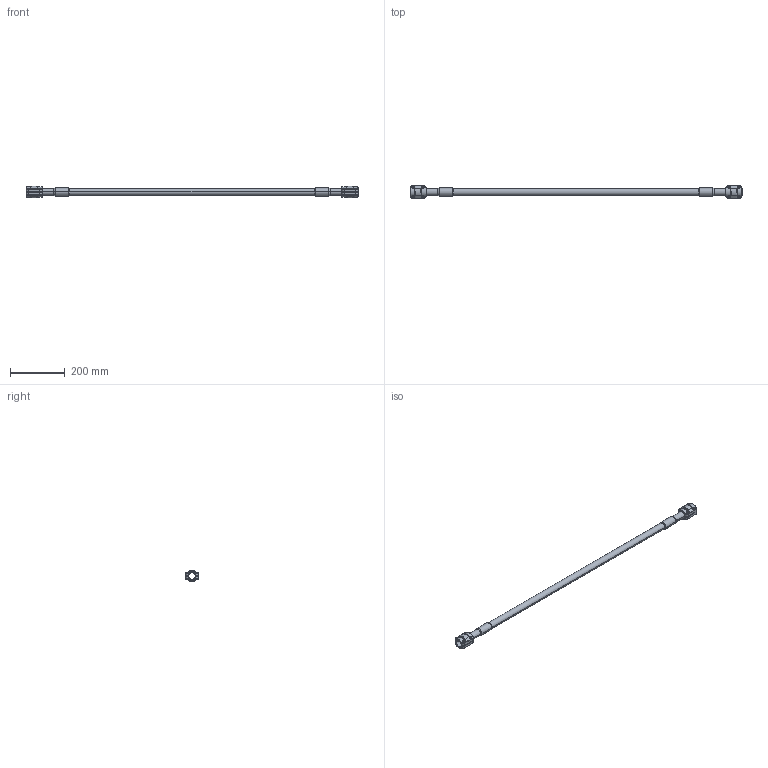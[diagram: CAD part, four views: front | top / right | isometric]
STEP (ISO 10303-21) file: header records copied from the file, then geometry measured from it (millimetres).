
FILE_DESCRIPTION((''),'2;1');
FILE_NAME('2015205599_ASM','2017-05-12T',('Administrator'),(''),'PRO/ENGINEER BY PARAMETRIC TECHNOLOGY CORPORATION, 2009360','PRO/ENGINEER BY PARAMETRIC TECHNOLOGY CORPORATION, 2009360','');
FILE_SCHEMA(('AUTOMOTIVE_DESIGN_CC2 { 1 2 10303 214 -1 1 5 2 }'));
Length unit declared in the file: millimetre
Products named in the file (5): 2015205500; 201520020000_23; 201520020001_10; 2015200200_ASM; 2015205599_ASM
Assembly tree (5 placements, depth 3):
  2015205599_ASM
    2015205500
    2015200200_ASM  x2
      201520020000_23
      201520020001_10
Bounding box: 1212 x 46 x 43.8 mm (x, y, z)
Volume: 206456.5 mm3; surface area: 213010.5 mm2
Topology: 5 solids, 5 shells, 654 faces, 1508 edges, 864 vertices
Faces by surface type: bspline 288, cylinder 204, torus 88, plane 58, sphere 16
Entity records: 16954 total; most frequent: CARTESIAN_POINT 7943, ORIENTED_EDGE 1552, DIRECTION 1116, PRESENTATION_STYLE_ASSIGNMENT 779, STYLED_ITEM 779, CURVE_STYLE 776, EDGE_CURVE 776, AXIS2_PLACEMENT_3D 476
